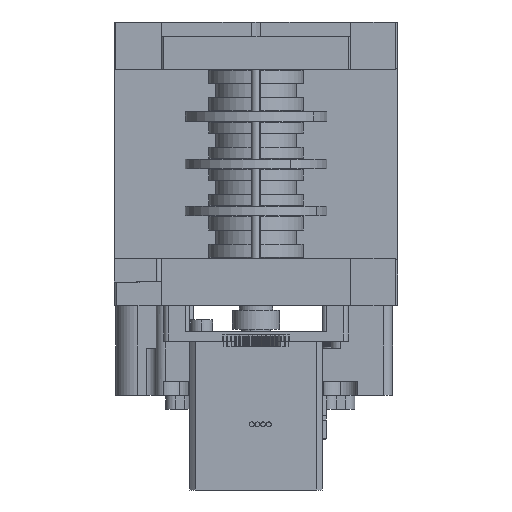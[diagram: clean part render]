
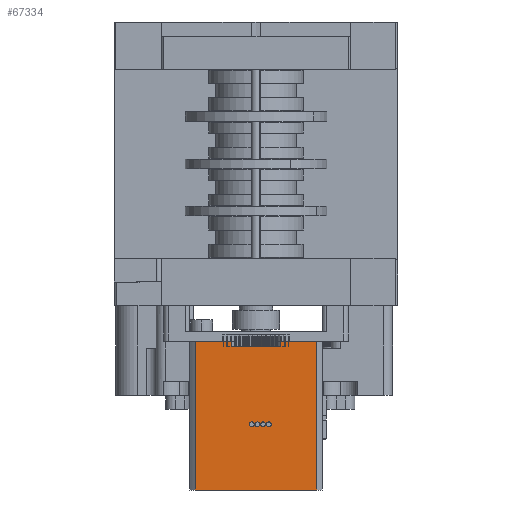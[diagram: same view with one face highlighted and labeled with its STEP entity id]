
A CAD part, front view. The second image highlights one B-rep face of the part: STEP entity #67334.
In plain terms, the highlighted planar face has unit normal (0, -1, 0) as drawn and (1, 0, 0) by its records, which use the part's own axes.
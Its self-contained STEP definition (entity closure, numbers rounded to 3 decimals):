
#7884 = CARTESIAN_POINT ( 'NONE',  ( 14., -12.845, 0. ) ) ;
#7966 = CARTESIAN_POINT ( 'NONE',  ( 14., 12.845, 31.5 ) ) ;
#8181 = CARTESIAN_POINT ( 'NONE',  ( 14., 12.845, 0. ) ) ;
#12028 = EDGE_CURVE ( 'NONE', #30386, #30523, #24172, .T. ) ;
#12030 = EDGE_CURVE ( 'NONE', #30357, #30407, #24165, .T. ) ;
#12114 = EDGE_CURVE ( 'NONE', #30386, #30357, #24286, .T. ) ;
#12135 = EDGE_CURVE ( 'NONE', #30407, #30523, #24320, .T. ) ;
#14252 = EDGE_LOOP ( 'NONE', ( #55231, #55388, #55303, #55352 ) ) ;
#24165 = LINE ( 'NONE', #62818, #24173 ) ;
#24172 = LINE ( 'NONE', #62844, #24196 ) ;
#24173 = VECTOR ( 'NONE', #62849, 1000. ) ;
#24196 = VECTOR ( 'NONE', #62850, 1000. ) ;
#24286 = LINE ( 'NONE', #62921, #24341 ) ;
#24287 = VECTOR ( 'NONE', #62958, 1000. ) ;
#24320 = LINE ( 'NONE', #62955, #24287 ) ;
#24341 = VECTOR ( 'NONE', #62928, 1000. ) ;
#29917 = FACE_OUTER_BOUND ( 'NONE', #14252, .T. ) ;
#30357 = VERTEX_POINT ( 'NONE', #72611 ) ;
#30386 = VERTEX_POINT ( 'NONE', #7884 ) ;
#30407 = VERTEX_POINT ( 'NONE', #7966 ) ;
#30523 = VERTEX_POINT ( 'NONE', #8181 ) ;
#40100 = AXIS2_PLACEMENT_3D ( 'NONE', #71581, #71615, #71602 ) ;
#55231 = ORIENTED_EDGE ( 'NONE', *, *, #12114, .F. ) ;
#55303 = ORIENTED_EDGE ( 'NONE', *, *, #12135, .F. ) ;
#55352 = ORIENTED_EDGE ( 'NONE', *, *, #12030, .F. ) ;
#55388 = ORIENTED_EDGE ( 'NONE', *, *, #12028, .T. ) ;
#62818 = CARTESIAN_POINT ( 'NONE',  ( 14., 14., 31.5 ) ) ;
#62844 = CARTESIAN_POINT ( 'NONE',  ( 14., 14., 0. ) ) ;
#62849 = DIRECTION ( 'NONE',  ( 0., 1., 0. ) ) ;
#62850 = DIRECTION ( 'NONE',  ( 0., 1., 0. ) ) ;
#62921 = CARTESIAN_POINT ( 'NONE',  ( 14., -12.845, 0. ) ) ;
#62928 = DIRECTION ( 'NONE',  ( 0., 0., 1. ) ) ;
#62955 = CARTESIAN_POINT ( 'NONE',  ( 14., 12.845, 0. ) ) ;
#62958 = DIRECTION ( 'NONE',  ( 0., 0., -1. ) ) ;
#67334 = ADVANCED_FACE ( 'NONE', ( #29917 ), #71545, .F. ) ;
#71545 = PLANE ( 'NONE',  #40100 ) ;
#71581 = CARTESIAN_POINT ( 'NONE',  ( 14., 14., 31.5 ) ) ;
#71602 = DIRECTION ( 'NONE',  ( 0., -1., 0. ) ) ;
#71615 = DIRECTION ( 'NONE',  ( -1., 0., 0. ) ) ;
#72611 = CARTESIAN_POINT ( 'NONE',  ( 14., -12.845, 31.5 ) ) ;
